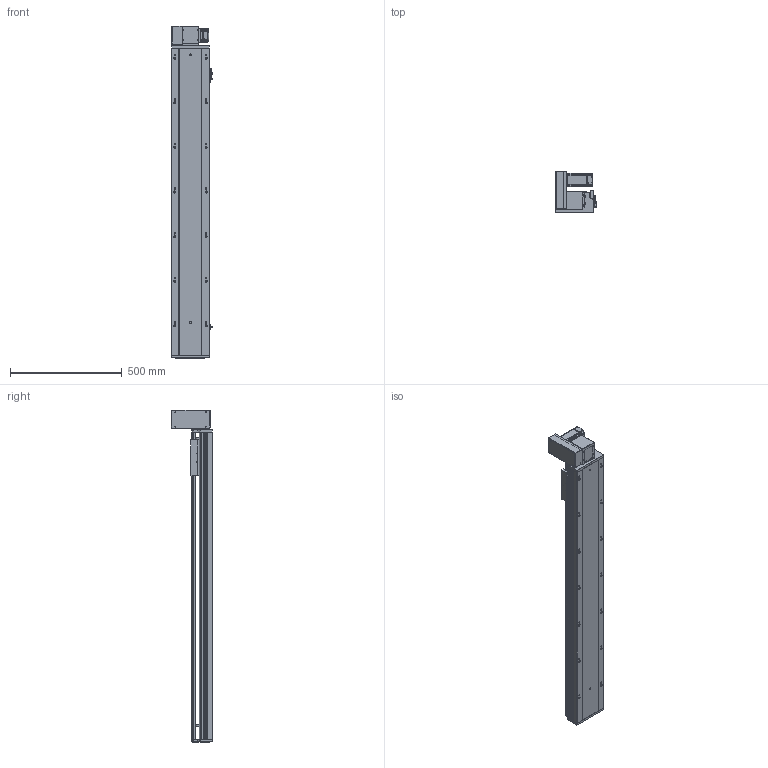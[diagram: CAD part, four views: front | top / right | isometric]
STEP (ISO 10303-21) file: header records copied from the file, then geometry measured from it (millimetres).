
FILE_DESCRIPTION (( 'STEP AP203' ), '1' );
FILE_NAME ('RY170-T-300-UL-P400W.SLDASM_1100.step', '2021-03-02T02:13:00', ( '盈信电脑' ), ( '东莞市道滘镇水果街19号' ), 'SwSTEP 2.0', 'SolidWorks 2012', '' );
FILE_SCHEMA (( 'CONFIG_CONTROL_DESIGN' ));
Products named in the file (18): RY170-T蹟翐M4; 15; RY170同步轮电机安装板(400W); RY170-T-300-UL-P400W.SLDASM_1100; RY170肮祭謫萇儂欶; 滅袉蝶18-10; RY120-T主同步轮轴承压盖; RY170-T肮祭謫裔啣; RY170-T肮祭湍揤踡輸2; RY170肮祭謫ヶ裔啣; RY170翋肮祭謫釱; RY170-T肮祭湍揤踡輸1; 覜茼ん672; RY170外置感应片(200共用）; RY170綴裔啣; RY170肮祭湍臏賑輸; RY170-T-300肮祭謫倰第菁釱-DL_1100; RY170-T-300肮祭謫倰第裔啣-DL_1100
Assembly tree (20 placements, depth 2):
  RY170-T-300-UL-P400W.SLDASM_1100
    RY170-T-300肮祭謫倰第菁釱-DL_1100
    RY170肮祭湍臏賑輸
    RY170-T-300肮祭謫倰第裔啣-DL_1100
    RY170綴裔啣
    覜茼ん672  x3
    RY170外置感应片(200共用）
    RY170肮祭謫ヶ裔啣
    RY170翋肮祭謫釱
    RY170-T肮祭湍揤踡輸1
    RY170-T肮祭湍揤踡輸2
    RY170-T肮祭謫裔啣
    滅袉蝶18-10  x2
    RY120-T主同步轮轴承压盖
    RY170肮祭謫萇儂欶
    RY170同步轮电机安装板(400W)
    RY170-T蹟翐M4
    15
Bounding box: 183.7 x 184 x 1488 mm (x, y, z)
Volume: 7301070 mm3; surface area: 2469176.1 mm2
Topology: 20 solids, 20 shells, 2573 faces, 7146 edges, 4569 vertices
Faces by surface type: cylinder 1154, plane 1145, cone 244, bspline 30
Entity records: 81456 total; most frequent: CARTESIAN_POINT 17938, ORIENTED_EDGE 12920, DIRECTION 12774, EDGE_CURVE 6460, AXIS2_PLACEMENT_3D 4487, VERTEX_POINT 4237, LINE 3800, VECTOR 3800
